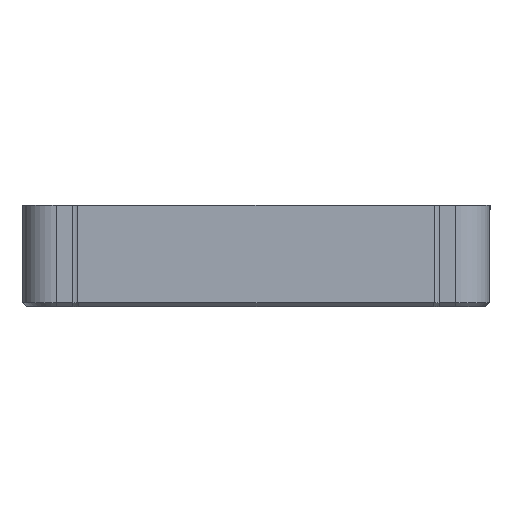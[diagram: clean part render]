
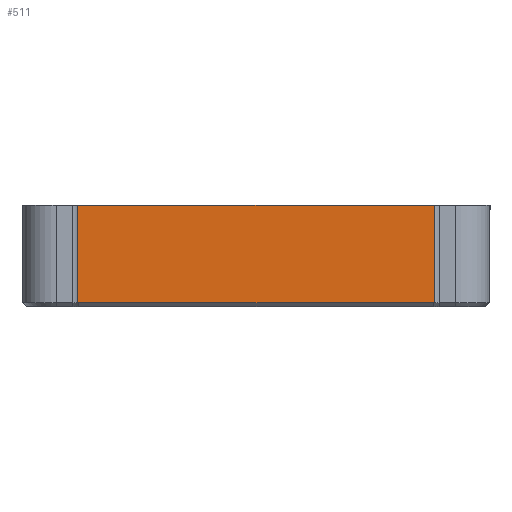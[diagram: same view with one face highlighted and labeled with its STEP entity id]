
A CAD part, front view. The second image highlights one B-rep face of the part: STEP entity #511.
In plain terms, the highlighted planar face has unit normal (0, -1, 0).
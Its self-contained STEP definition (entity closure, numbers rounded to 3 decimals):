
#56 = CARTESIAN_POINT ( 'NONE',  ( 87.502, -165., 50. ) ) ;
#132 = ORIENTED_EDGE ( 'NONE', *, *, #883, .F. ) ;
#137 = EDGE_CURVE ( 'NONE', #863, #499, #933, .T. ) ;
#336 = EDGE_CURVE ( 'NONE', #499, #735, #423, .T. ) ;
#412 = CARTESIAN_POINT ( 'NONE',  ( 42.502, -165., 2. ) ) ;
#423 = LINE ( 'NONE', #1620, #1301 ) ;
#446 = DIRECTION ( 'NONE',  ( -1., 0., 0. ) ) ;
#499 = VERTEX_POINT ( 'NONE', #56 ) ;
#511 = ADVANCED_FACE ( 'NONE', ( #956 ), #1372, .F. ) ;
#565 = VECTOR ( 'NONE', #1516, 1000. ) ;
#573 = ORIENTED_EDGE ( 'NONE', *, *, #336, .T. ) ;
#735 = VERTEX_POINT ( 'NONE', #1115 ) ;
#758 = ORIENTED_EDGE ( 'NONE', *, *, #137, .T. ) ;
#784 = VECTOR ( 'NONE', #1287, 1000. ) ;
#863 = VERTEX_POINT ( 'NONE', #1052 ) ;
#883 = EDGE_CURVE ( 'NONE', #1472, #735, #1754, .T. ) ;
#933 = LINE ( 'NONE', #1241, #565 ) ;
#956 = FACE_OUTER_BOUND ( 'NONE', #1496, .T. ) ;
#1021 = CARTESIAN_POINT ( 'NONE',  ( -87.502, -165., 7. ) ) ;
#1052 = CARTESIAN_POINT ( 'NONE',  ( 87.502, -165., 2. ) ) ;
#1076 = DIRECTION ( 'NONE',  ( 0., 1., 0. ) ) ;
#1115 = CARTESIAN_POINT ( 'NONE',  ( -87.502, -165., 50. ) ) ;
#1133 = LINE ( 'NONE', #412, #784 ) ;
#1181 = CARTESIAN_POINT ( 'NONE',  ( -87.502, -165., 2. ) ) ;
#1241 = CARTESIAN_POINT ( 'NONE',  ( 87.502, -165., 7. ) ) ;
#1287 = DIRECTION ( 'NONE',  ( 1., 0., 0. ) ) ;
#1301 = VECTOR ( 'NONE', #446, 1000. ) ;
#1366 = AXIS2_PLACEMENT_3D ( 'NONE', #1670, #1076, #1828 ) ;
#1372 = PLANE ( 'NONE',  #1366 ) ;
#1394 = EDGE_CURVE ( 'NONE', #1472, #863, #1133, .T. ) ;
#1464 = DIRECTION ( 'NONE',  ( 0., 0., 1. ) ) ;
#1472 = VERTEX_POINT ( 'NONE', #1181 ) ;
#1496 = EDGE_LOOP ( 'NONE', ( #132, #1579, #758, #573 ) ) ;
#1516 = DIRECTION ( 'NONE',  ( 0., 0., 1. ) ) ;
#1550 = VECTOR ( 'NONE', #1464, 1000. ) ;
#1579 = ORIENTED_EDGE ( 'NONE', *, *, #1394, .T. ) ;
#1620 = CARTESIAN_POINT ( 'NONE',  ( 53., -165., 50. ) ) ;
#1670 = CARTESIAN_POINT ( 'NONE',  ( 42.502, -165., 7. ) ) ;
#1754 = LINE ( 'NONE', #1021, #1550 ) ;
#1828 = DIRECTION ( 'NONE',  ( -1., 0., 0. ) ) ;
